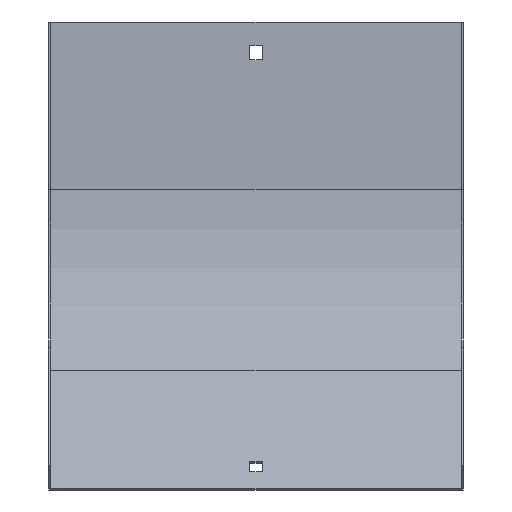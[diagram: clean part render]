
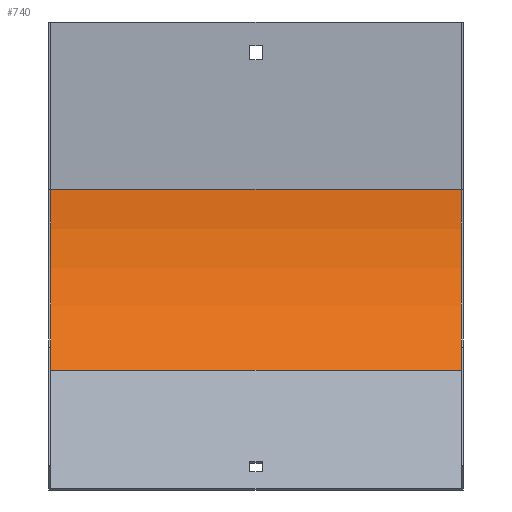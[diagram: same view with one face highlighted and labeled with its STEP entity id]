
A CAD part, front view. The second image highlights one B-rep face of the part: STEP entity #740.
In plain terms, the highlighted cylindrical face has radius 125 mm (diameter 250 mm), a partial arc.
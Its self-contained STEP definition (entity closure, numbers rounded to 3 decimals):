
#15 = VERTEX_POINT ( 'NONE', #134 ) ;
#53 = DIRECTION ( 'NONE',  ( -1., 0., 0. ) ) ;
#70 = CYLINDRICAL_SURFACE ( 'NONE', #724, 125. ) ;
#111 = CARTESIAN_POINT ( 'NONE',  ( 100., -37.612, -169.809 ) ) ;
#122 = DIRECTION ( 'NONE',  ( 1., 0., 0. ) ) ;
#134 = CARTESIAN_POINT ( 'NONE',  ( -100., -37.612, -169.809 ) ) ;
#175 = VERTEX_POINT ( 'NONE', #629 ) ;
#190 = FACE_OUTER_BOUND ( 'NONE', #652, .T. ) ;
#192 = VECTOR ( 'NONE', #229, 1000. ) ;
#224 = CIRCLE ( 'NONE', #631, 125. ) ;
#229 = DIRECTION ( 'NONE',  ( -1., 0., 0. ) ) ;
#301 = EDGE_CURVE ( 'NONE', #632, #734, #224, .T. ) ;
#330 = DIRECTION ( 'NONE',  ( -1., 0., 0. ) ) ;
#372 = CARTESIAN_POINT ( 'NONE',  ( 101., -1., -81.421 ) ) ;
#382 = ORIENTED_EDGE ( 'NONE', *, *, #492, .F. ) ;
#385 = LINE ( 'NONE', #372, #851 ) ;
#403 = CARTESIAN_POINT ( 'NONE',  ( 101., -126., -81.421 ) ) ;
#487 = CARTESIAN_POINT ( 'NONE',  ( 101., -37.612, -169.809 ) ) ;
#492 = EDGE_CURVE ( 'NONE', #632, #15, #546, .T. ) ;
#498 = AXIS2_PLACEMENT_3D ( 'NONE', #720, #122, #654 ) ;
#526 = CARTESIAN_POINT ( 'NONE',  ( 100., -1., -81.421 ) ) ;
#546 = LINE ( 'NONE', #487, #192 ) ;
#563 = ORIENTED_EDGE ( 'NONE', *, *, #301, .T. ) ;
#574 = DIRECTION ( 'NONE',  ( 0., 0., 1. ) ) ;
#578 = CARTESIAN_POINT ( 'NONE',  ( 100., -126., -81.421 ) ) ;
#597 = DIRECTION ( 'NONE',  ( 0., 0., 1. ) ) ;
#629 = CARTESIAN_POINT ( 'NONE',  ( -100., -1., -81.421 ) ) ;
#631 = AXIS2_PLACEMENT_3D ( 'NONE', #578, #854, #574 ) ;
#632 = VERTEX_POINT ( 'NONE', #111 ) ;
#650 = EDGE_CURVE ( 'NONE', #734, #175, #385, .T. ) ;
#652 = EDGE_LOOP ( 'NONE', ( #697, #382, #563, #852 ) ) ;
#654 = DIRECTION ( 'NONE',  ( 0., 0., 1. ) ) ;
#670 = EDGE_CURVE ( 'NONE', #15, #175, #817, .T. ) ;
#697 = ORIENTED_EDGE ( 'NONE', *, *, #670, .F. ) ;
#720 = CARTESIAN_POINT ( 'NONE',  ( -100., -126., -81.421 ) ) ;
#724 = AXIS2_PLACEMENT_3D ( 'NONE', #403, #330, #597 ) ;
#734 = VERTEX_POINT ( 'NONE', #526 ) ;
#740 = ADVANCED_FACE ( 'NONE', ( #190 ), #70, .F. ) ;
#817 = CIRCLE ( 'NONE', #498, 125. ) ;
#851 = VECTOR ( 'NONE', #53, 1000. ) ;
#852 = ORIENTED_EDGE ( 'NONE', *, *, #650, .T. ) ;
#854 = DIRECTION ( 'NONE',  ( 1., 0., 0. ) ) ;
